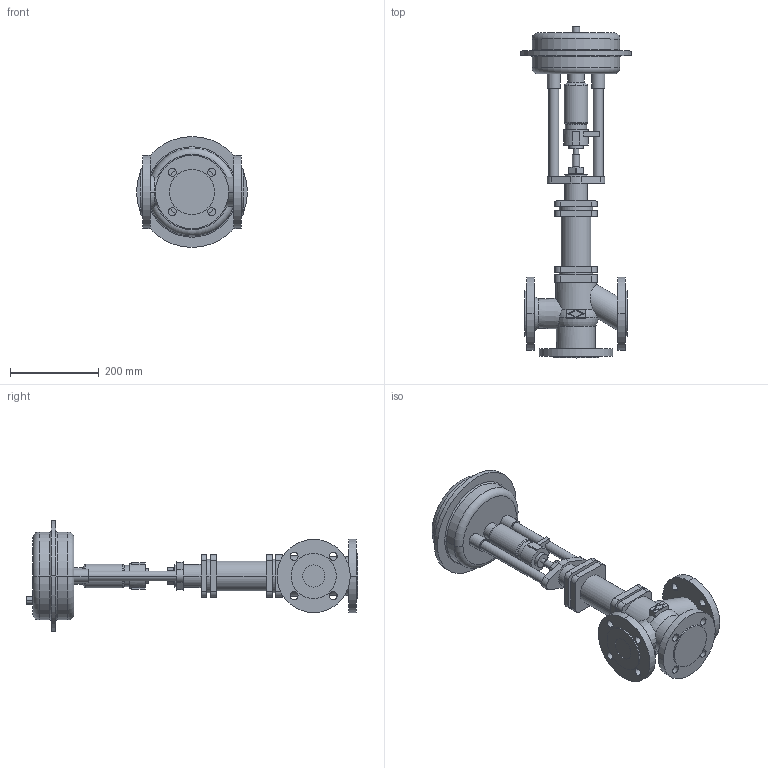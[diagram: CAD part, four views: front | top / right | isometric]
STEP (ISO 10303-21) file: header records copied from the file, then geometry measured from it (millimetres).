
FILE_DESCRIPTION(('OneSpaceDesigner STEP Export'),'2;1');
FILE_NAME('c000000723.stp','2006-09-20T11:14:42',(''),(''),'OneSpace Designer STEP processor for AP214 (Solid Model)','OneSpace Designer 13.20A 18-Aug-2005 (C) CoCreate Software GmbH','');
FILE_SCHEMA(('AUTOMOTIVE_DESIGN { 1 0 10303 214 1 1 1 1 }'));
Length unit declared in the file: millimetre
Products named in the file (2): 1; 2
Bounding box: 250 x 748.5 x 250 mm (x, y, z)
Volume: 7258929.9 mm3; surface area: 540059.9 mm2
Topology: 2 solids, 2 shells, 245 faces, 599 edges, 392 vertices
Faces by surface type: cylinder 114, plane 101, torus 22, cone 8
Entity records: 6745 total; most frequent: CARTESIAN_POINT 1330, ORIENTED_EDGE 1198, DIRECTION 1014, EDGE_CURVE 599, VERTEX_POINT 392, AXIS2_PLACEMENT_3D 364, EDGE_LOOP 303, VECTOR 286
